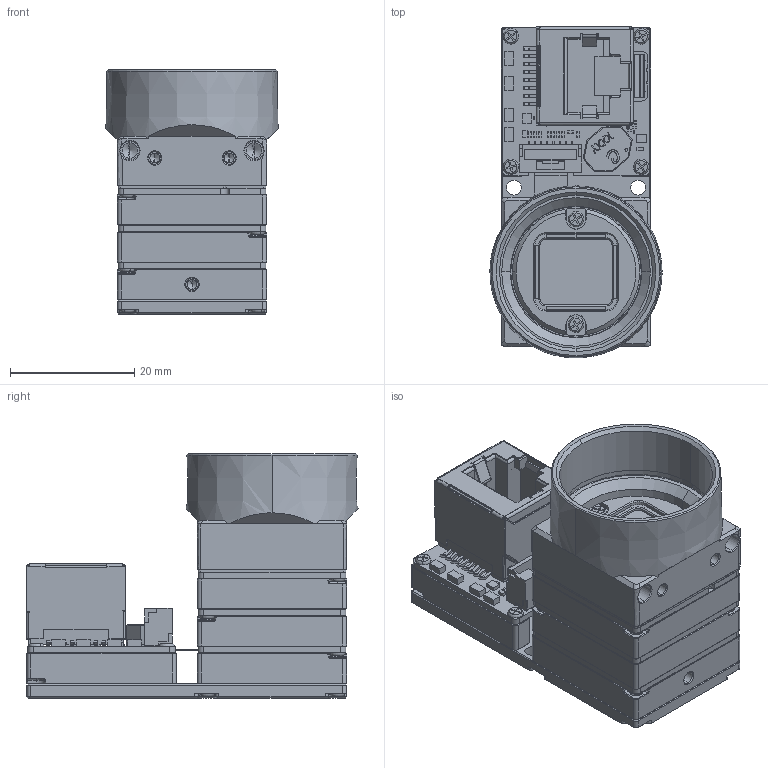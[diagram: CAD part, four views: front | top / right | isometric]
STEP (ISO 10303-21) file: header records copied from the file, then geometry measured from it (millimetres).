
FILE_DESCRIPTION (( 'STEP AP203' ), '1' );
FILE_NAME ('408-379-A_RJ45_180.STEP', '2023-03-02T07:39:07', ( '' ), ( '' ), 'SwSTEP 2.0', 'SolidWorks 2021', '' );
FILE_SCHEMA (( 'CONFIG_CONTROL_DESIGN' ));
Length unit declared in the file: millimetre
Products named in the file (1): 408-379-A_RJ45_180
Bounding box: 27.72 x 53.45 x 39.35 mm (x, y, z)
Volume: 13118.8 mm3; surface area: 24787.7 mm2
Topology: 64 solids, 64 shells, 5607 faces, 14467 edges, 8902 vertices
Faces by surface type: plane 3157, cylinder 1409, cone 435, bspline 321, torus 195, sphere 90
Entity records: 174422 total; most frequent: CARTESIAN_POINT 39539, ORIENTED_EDGE 28538, DIRECTION 27365, EDGE_CURVE 14269, LINE 9963, VECTOR 9963, VERTEX_POINT 8892, AXIS2_PLACEMENT_3D 8701
